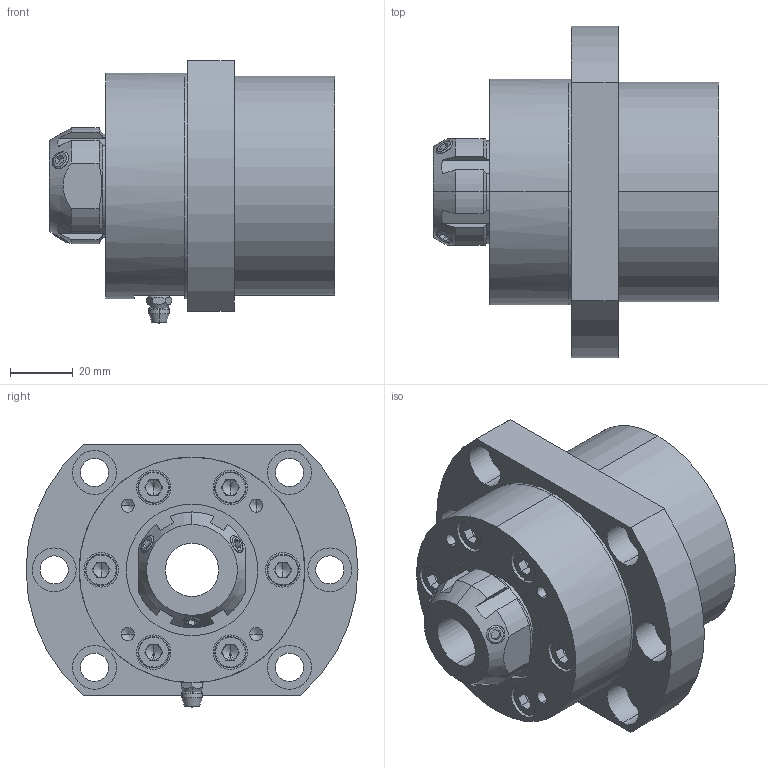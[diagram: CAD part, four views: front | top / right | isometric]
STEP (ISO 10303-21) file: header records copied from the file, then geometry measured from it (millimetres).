
FILE_DESCRIPTION (( 'STEP AP203' ), '1' );
FILE_NAME ('SWBK17G-DF.STEP', '2018-09-15T04:15:04', ( '' ), ( '' ), 'SwSTEP 2.0', 'SolidWorks 2015', '' );
FILE_SCHEMA (( 'CONFIG_CONTROL_DESIGN' ));
Length unit declared in the file: millimetre
Products named in the file (1): SWBK17G-DF
Bounding box: 91 x 106 x 83.9 mm (x, y, z)
Volume: 306065.4 mm3; surface area: 91123.6 mm2
Topology: 23 solids, 38 shells, 643 faces, 1591 edges, 951 vertices
Faces by surface type: cylinder 218, plane 204, cone 102, bspline 83, torus 36
Entity records: 23067 total; most frequent: CARTESIAN_POINT 8619, DIRECTION 3034, ORIENTED_EDGE 2926, EDGE_CURVE 1463, AXIS2_PLACEMENT_3D 1237, VERTEX_POINT 951, EDGE_LOOP 736, CIRCLE 676
